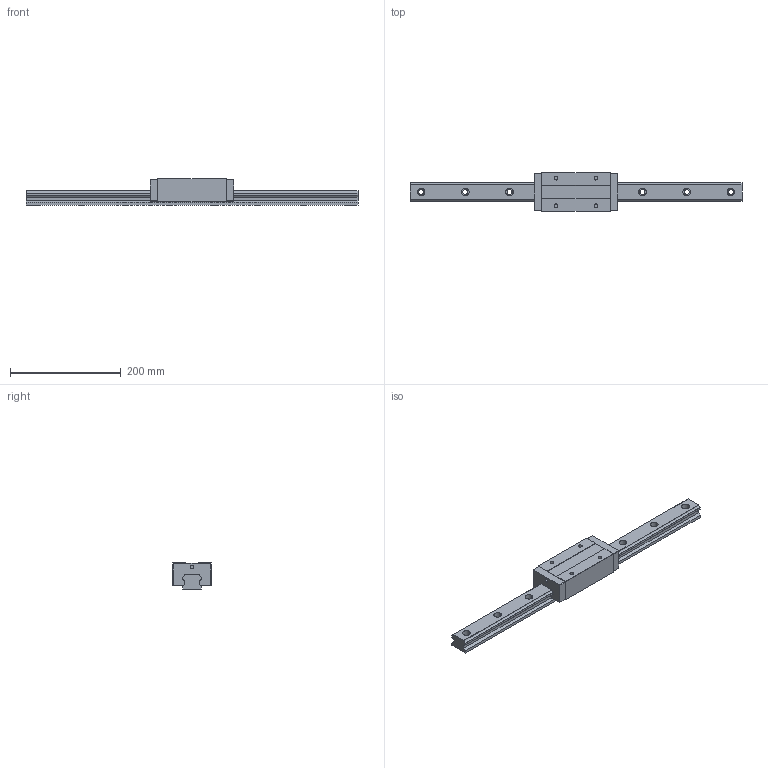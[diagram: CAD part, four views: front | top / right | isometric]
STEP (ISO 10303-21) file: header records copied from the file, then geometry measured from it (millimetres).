
FILE_DESCRIPTION (( 'STEP AP203' ), '1' );
FILE_NAME ('TRS35VE-XNC.STEP', '2024-08-16T07:26:27', ( '' ), ( '' ), 'SwSTEP 2.0', 'SolidWorks 2021', '' );
FILE_SCHEMA (( 'CONFIG_CONTROL_DESIGN' ));
Length unit declared in the file: millimetre
Products named in the file (1): TRS35VE-XNC
Bounding box: 600 x 70 x 48 mm (x, y, z)
Volume: 785937.5 mm3; surface area: 123795.6 mm2
Topology: 1 solids, 1 shells, 162 faces, 440 edges, 292 vertices
Faces by surface type: plane 82, cylinder 80
Entity records: 5265 total; most frequent: DIRECTION 926, CARTESIAN_POINT 895, ORIENTED_EDGE 880, EDGE_CURVE 440, AXIS2_PLACEMENT_3D 323, VERTEX_POINT 292, VECTOR 280, LINE 280
